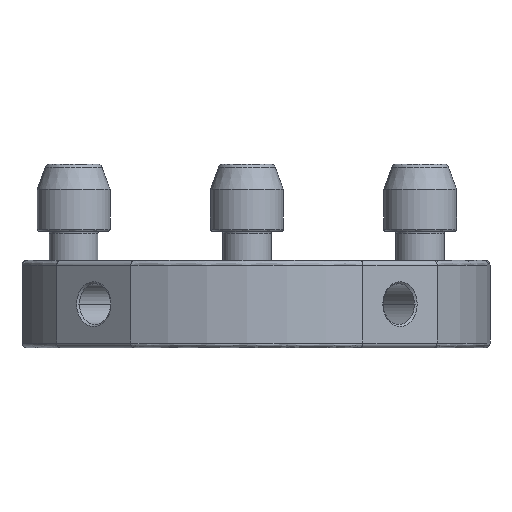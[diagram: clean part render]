
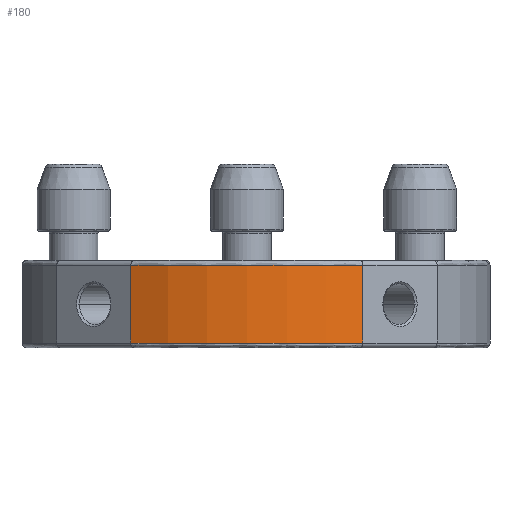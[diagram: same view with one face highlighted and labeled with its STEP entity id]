
A CAD part, front view. The second image highlights one B-rep face of the part: STEP entity #180.
In plain terms, the highlighted cylindrical face has radius 25 mm (diameter 50 mm), a partial arc.
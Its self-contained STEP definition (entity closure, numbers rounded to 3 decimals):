
#51 = CIRCLE ( 'NONE', #7070, 25. ) ;
#103 = ORIENTED_EDGE ( 'NONE', *, *, #4012, .F. ) ;
#180 = ADVANCED_FACE ( 'NONE', ( #10108 ), #9988, .T. ) ;
#686 = ORIENTED_EDGE ( 'NONE', *, *, #3333, .F. ) ;
#1489 = DIRECTION ( 'NONE',  ( -1., 0., 0. ) ) ;
#1501 = DIRECTION ( 'NONE',  ( 0., 0., -1. ) ) ;
#1506 = CARTESIAN_POINT ( 'NONE',  ( 0., 0., -8.5 ) ) ;
#1877 = CARTESIAN_POINT ( 'NONE',  ( 11.937, -21.966, 0. ) ) ;
#1951 = DIRECTION ( 'NONE',  ( 0., 0., -1. ) ) ;
#2216 = CARTESIAN_POINT ( 'NONE',  ( 11.937, -21.966, -8.5 ) ) ;
#3333 = EDGE_CURVE ( 'NONE', #8074, #8389, #51, .T. ) ;
#3603 = ORIENTED_EDGE ( 'NONE', *, *, #6114, .T. ) ;
#4012 = EDGE_CURVE ( 'NONE', #7992, #8074, #9448, .T. ) ;
#4186 = EDGE_CURVE ( 'NONE', #7992, #10317, #7079, .T. ) ;
#4449 = VECTOR ( 'NONE', #1951, 1000. ) ;
#5365 = VECTOR ( 'NONE', #10989, 1000. ) ;
#5701 = LINE ( 'NONE', #11033, #5365 ) ;
#5740 = DIRECTION ( 'NONE',  ( 0., 1., 0. ) ) ;
#5743 = CARTESIAN_POINT ( 'NONE',  ( 0., 0., 0. ) ) ;
#5898 = EDGE_LOOP ( 'NONE', ( #103, #12242, #3603, #686 ) ) ;
#5900 = DIRECTION ( 'NONE',  ( 0., 0., -1. ) ) ;
#6114 = EDGE_CURVE ( 'NONE', #10317, #8389, #5701, .T. ) ;
#7032 = CARTESIAN_POINT ( 'NONE',  ( -11.937, -21.966, -0.5 ) ) ;
#7070 = AXIS2_PLACEMENT_3D ( 'NONE', #1506, #1501, #1489 ) ;
#7079 = CIRCLE ( 'NONE', #8422, 25. ) ;
#7274 = CARTESIAN_POINT ( 'NONE',  ( 11.937, -21.966, -0.5 ) ) ;
#7992 = VERTEX_POINT ( 'NONE', #7274 ) ;
#8074 = VERTEX_POINT ( 'NONE', #2216 ) ;
#8389 = VERTEX_POINT ( 'NONE', #10779 ) ;
#8422 = AXIS2_PLACEMENT_3D ( 'NONE', #10703, #10687, #10667 ) ;
#9448 = LINE ( 'NONE', #1877, #4449 ) ;
#9988 = CYLINDRICAL_SURFACE ( 'NONE', #10020, 25. ) ;
#10020 = AXIS2_PLACEMENT_3D ( 'NONE', #5743, #5900, #5740 ) ;
#10108 = FACE_OUTER_BOUND ( 'NONE', #5898, .T. ) ;
#10317 = VERTEX_POINT ( 'NONE', #7032 ) ;
#10667 = DIRECTION ( 'NONE',  ( 0., 1., 0. ) ) ;
#10687 = DIRECTION ( 'NONE',  ( 0., 0., -1. ) ) ;
#10703 = CARTESIAN_POINT ( 'NONE',  ( 0., 0., -0.5 ) ) ;
#10779 = CARTESIAN_POINT ( 'NONE',  ( -11.937, -21.966, -8.5 ) ) ;
#10989 = DIRECTION ( 'NONE',  ( 0., 0., -1. ) ) ;
#11033 = CARTESIAN_POINT ( 'NONE',  ( -11.937, -21.966, 0. ) ) ;
#12242 = ORIENTED_EDGE ( 'NONE', *, *, #4186, .T. ) ;
